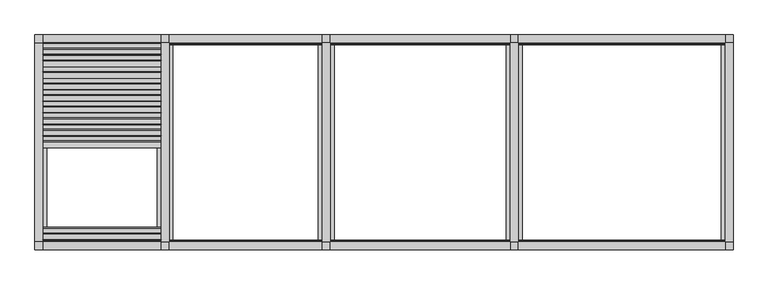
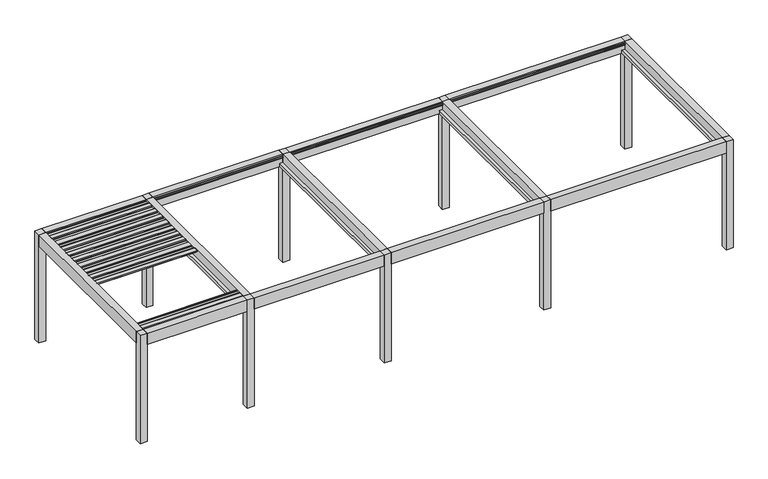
"""IFC4 building model written with IfcOpenShell, lengths in millimetres: proxy geometry, Renson_Camargue_Freestanding_Patio covers : Renson_Camargue_Freestanding_Patio covers."""

from ifc_helpers import new_model, si_unit, point, frame, frame_2d, origin, origin_with_axes, place, context, project, spatial, polyline, circle_curve, trimmed, segment, composite_curve, outline, extrude, source, transform, mapped, element, save


def generic_models_125597d2(model_context):
    return source(origin(), model_context, "Body", "SweptSolid", [
        extrude(outline(composite_curve([segment(polyline([(-68.6582016, 2458.35), (-71.0783113, 2486.01198), (-99.9135617, 2487.3970364), (-96.4762307, 2506.8911096), (13.5208842, 2501.6075693)]), True, "CONTINUOUS"), segment(trimmed(circle_curve(frame_2d((12.8012122, 2486.6248435)), 15.0), [point((13.5208842, 2501.6075693))], [point((27.5733285, 2489.2295662))], False, "CARTESIAN"), True, "CONTINUOUS"), segment(polyline([(27.5733285, 2489.2295662), (30.9640199, 2470.0), (118.6997959, 2470.0), (121.7112533, 2487.0788237), (136.9882238, 2486.3450182), (139.4374705, 2458.35), (-68.6582016, 2458.35)]), True, "CONTINUOUS")], self_intersect=False)), frame((-1100.0, 0.0, 0.0), z_axis=(1.0, 0.0, 0.0), x_axis=(0.0, 1.0, 0.0)), (0.0, 0.0, 1.0), 2200.0),
        extrude(outline(composite_curve([segment(polyline([(146.3526032, 2458.35), (143.9324935, 2486.01198), (115.097243, 2487.3970364), (118.5345741, 2506.8911096), (228.531689, 2501.6075693)]), True, "CONTINUOUS"), segment(trimmed(circle_curve(frame_2d((227.812017, 2486.6248435)), 15.0), [point((228.531689, 2501.6075693))], [point((242.5841333, 2489.2295662))], False, "CARTESIAN"), True, "CONTINUOUS"), segment(polyline([(242.5841333, 2489.2295662), (245.9748247, 2470.0), (333.7106007, 2470.0), (336.7220581, 2487.0788237), (351.9990286, 2486.3450182), (354.4482753, 2458.35), (146.3526032, 2458.35)]), True, "CONTINUOUS")], self_intersect=False)), frame((-1100.0, 0.0, 0.0), z_axis=(1.0, 0.0, 0.0), x_axis=(0.0, 1.0, 0.0)), (0.0, 0.0, 1.0), 2200.0),
        extrude(outline(composite_curve([segment(polyline([(361.3634079, 2458.35), (358.9432983, 2486.01198), (330.1080478, 2487.3970364), (333.5453789, 2506.8911096), (443.5424937, 2501.6075693)]), True, "CONTINUOUS"), segment(trimmed(circle_curve(frame_2d((442.8228218, 2486.6248435)), 15.0), [point((443.5424937, 2501.6075693))], [point((457.5949381, 2489.2295662))], False, "CARTESIAN"), True, "CONTINUOUS"), segment(polyline([(457.5949381, 2489.2295662), (460.9856294, 2470.0), (548.7214055, 2470.0), (551.7328629, 2487.0788237), (567.0098334, 2486.3450182), (569.4590801, 2458.35), (361.3634079, 2458.35)]), True, "CONTINUOUS")], self_intersect=False)), frame((-1100.0, 0.0, 0.0), z_axis=(1.0, 0.0, 0.0), x_axis=(0.0, 1.0, 0.0)), (0.0, 0.0, 1.0), 2200.0),
        extrude(outline(composite_curve([segment(polyline([(576.3742127, 2458.35), (573.9541031, 2486.01198), (545.1188526, 2487.3970364), (548.5561837, 2506.8911096), (658.5532985, 2501.6075693)]), True, "CONTINUOUS"), segment(trimmed(circle_curve(frame_2d((657.8336266, 2486.6248435)), 15.0), [point((658.5532985, 2501.6075693))], [point((672.6057429, 2489.2295662))], False, "CARTESIAN"), True, "CONTINUOUS"), segment(polyline([(672.6057429, 2489.2295662), (675.9964342, 2470.0), (763.7322103, 2470.0), (766.7436677, 2487.0788237), (782.0206381, 2486.3450182), (784.4698849, 2458.35), (576.3742127, 2458.35)]), True, "CONTINUOUS")], self_intersect=False)), frame((-1100.0, 0.0, 0.0), z_axis=(1.0, 0.0, 0.0), x_axis=(0.0, 1.0, 0.0)), (0.0, 0.0, 1.0), 2200.0),
        extrude(outline(composite_curve([segment(polyline([(791.3850175, 2458.35), (788.9649078, 2486.01198), (760.1296574, 2487.3970364), (763.5669885, 2506.8911096), (873.5641033, 2501.6075693)]), True, "CONTINUOUS"), segment(trimmed(circle_curve(frame_2d((872.8444314, 2486.6248435)), 15.0), [point((873.5641033, 2501.6075693))], [point((887.6165477, 2489.2295662))], False, "CARTESIAN"), True, "CONTINUOUS"), segment(polyline([(887.6165477, 2489.2295662), (891.007239, 2470.0), (978.743015, 2470.0), (981.7544725, 2487.0788237), (997.0314429, 2486.3450182), (999.4806897, 2458.35), (791.3850175, 2458.35)]), True, "CONTINUOUS")], self_intersect=False)), frame((-1100.0, 0.0, 0.0), z_axis=(1.0, 0.0, 0.0), x_axis=(0.0, 1.0, 0.0)), (0.0, 0.0, 1.0), 2200.0),
        extrude(outline(composite_curve([segment(polyline([(1006.3958223, 2458.35), (1003.9757126, 2486.01198), (975.1404622, 2487.3970364), (978.5777932, 2506.8911096), (1088.5749081, 2501.6075693)]), True, "CONTINUOUS"), segment(trimmed(circle_curve(frame_2d((1087.8552362, 2486.6248435)), 15.0), [point((1088.5749081, 2501.6075693))], [point((1102.6273525, 2489.2295662))], False, "CARTESIAN"), True, "CONTINUOUS"), segment(polyline([(1102.6273525, 2489.2295662), (1106.0180438, 2470.0), (1193.7538198, 2470.0), (1196.7652772, 2487.0788237), (1212.0422477, 2486.3450182), (1214.4914944, 2458.35), (1006.3958223, 2458.35)]), True, "CONTINUOUS")], self_intersect=False)), frame((-1100.0, 0.0, 0.0), z_axis=(1.0, 0.0, 0.0), x_axis=(0.0, 1.0, 0.0)), (0.0, 0.0, 1.0), 2200.0),
        extrude(outline(composite_curve([segment(polyline([(1221.4066271, 2458.35), (1218.9865174, 2486.01198), (1190.1512669, 2487.3970364), (1193.588598, 2506.8911096), (1303.5857129, 2501.6075693)]), True, "CONTINUOUS"), segment(trimmed(circle_curve(frame_2d((1302.8660409, 2486.6248435)), 15.0), [point((1303.5857129, 2501.6075693))], [point((1317.6381572, 2489.2295662))], False, "CARTESIAN"), True, "CONTINUOUS"), segment(polyline([(1317.6381572, 2489.2295662), (1321.0288486, 2470.0), (1408.7646246, 2470.0), (1411.776082, 2487.0788237), (1427.0530525, 2486.3450182), (1429.5022992, 2458.35), (1221.4066271, 2458.35)]), True, "CONTINUOUS")], self_intersect=False)), frame((-1100.0, 0.0, 0.0), z_axis=(1.0, 0.0, 0.0), x_axis=(0.0, 1.0, 0.0)), (0.0, 0.0, 1.0), 2200.0),
        extrude(outline(composite_curve([segment(polyline([(1436.4174318, 2458.35), (1433.9973222, 2486.01198), (1405.1620717, 2487.3970364), (1408.5994028, 2506.8911096), (1518.5965176, 2501.6075693)]), True, "CONTINUOUS"), segment(trimmed(circle_curve(frame_2d((1517.8768457, 2486.6248435)), 15.0), [point((1518.5965176, 2501.6075693))], [point((1532.648962, 2489.2295662))], False, "CARTESIAN"), True, "CONTINUOUS"), segment(polyline([(1532.648962, 2489.2295662), (1536.0396534, 2470.0), (1623.7754294, 2470.0), (1626.7868868, 2487.0788237), (1642.0638573, 2486.3450182), (1644.513104, 2458.35), (1436.4174318, 2458.35)]), True, "CONTINUOUS")], self_intersect=False)), frame((-1100.0, 0.0, 0.0), z_axis=(1.0, 0.0, 0.0), x_axis=(0.0, 1.0, 0.0)), (0.0, 0.0, 1.0), 2200.0),
        extrude(outline(composite_curve([segment(polyline([(-1788.7446399, 2458.35), (-1791.1647495, 2486.01198), (-1820.0, 2487.3970364), (-1816.5626689, 2506.8911096), (-1706.5655541, 2501.6075693)]), True, "CONTINUOUS"), segment(trimmed(circle_curve(frame_2d((-1707.285226, 2486.6248435)), 15.0), [point((-1706.5655541, 2501.6075693))], [point((-1692.5131097, 2489.2295662))], False, "CARTESIAN"), True, "CONTINUOUS"), segment(polyline([(-1692.5131097, 2489.2295662), (-1689.1224184, 2470.0), (-1601.3866423, 2470.0), (-1598.3751849, 2487.0788237), (-1583.0982144, 2486.3450182), (-1580.6489677, 2458.35), (-1788.7446399, 2458.35)]), True, "CONTINUOUS")], self_intersect=False)), frame((-1100.0, 0.0, 0.0), z_axis=(1.0, 0.0, 0.0), x_axis=(0.0, 1.0, 0.0)), (0.0, 0.0, 1.0), 2200.0),
        extrude(outline(composite_curve([segment(polyline([(1651.4282366, 2458.35), (1649.008127, 2486.01198), (1620.1728765, 2487.3970364), (1623.6102076, 2506.8911096), (1733.6073224, 2501.6075693)]), True, "CONTINUOUS"), segment(trimmed(circle_curve(frame_2d((1732.8876505, 2486.6248435)), 15.0), [point((1733.6073224, 2501.6075693))], [point((1747.6597668, 2489.2295662))], False, "CARTESIAN"), True, "CONTINUOUS"), segment(polyline([(1747.6597668, 2489.2295662), (1751.0504581, 2470.0), (1838.7862342, 2470.0), (1841.7976916, 2487.0788237), (1857.0746621, 2486.3450182), (1859.5239088, 2458.35), (1651.4282366, 2458.35)]), True, "CONTINUOUS")], self_intersect=False)), frame((-1100.0, 0.0, 0.0), z_axis=(1.0, 0.0, 0.0), x_axis=(0.0, 1.0, 0.0)), (0.0, 0.0, 1.0), 2200.0),
        extrude(outline(polyline([(1850.0, 2441.6559373), (1824.0, 2441.6559373), (1820.2487113, 2455.6555802), (1829.5940945, 2455.6555802), (1845.0, 2471.400763), (1845.0, 2479.2449277), (1850.0, 2479.6823598), (1850.0, 2441.6559373)])), frame((7750.0, 0.0, 0.0), z_axis=(1.0, 0.0, 0.0), x_axis=(0.0, 1.0, 0.0)), (0.0, 0.0, 1.0), 3850.0),
        extrude(outline(polyline([(11600.0, 2000.0), (11600.0, 1850.0), (7750.0, 1850.0), (7750.0, 2000.0), (11600.0, 2000.0)])), frame((0.0, 0.0, 2250.0), z_axis=(0.0, 0.0, 1.0), x_axis=(1.0, 0.0, 0.0)), (0.0, 0.0, 1.0), 260.0),
        extrude(outline(polyline([(-2000.0, 2250.0), (-2000.0, 2510.0), (-1850.0, 2510.0), (-1850.0, 2479.6823598), (-1845.0, 2479.2449277), (-1845.0, 2471.400763), (-1829.2544156, 2455.6555802), (-1819.9090324, 2455.6555802), (-1823.6603211, 2441.6559373), (-1850.0, 2441.6559373), (-1850.0, 2250.0), (-2000.0, 2250.0)])), frame((7750.0, 0.0, 0.0), z_axis=(1.0, 0.0, 0.0), x_axis=(0.0, 1.0, 0.0)), (0.0, 0.0, 1.0), 3850.0),
        extrude(outline(polyline([(2510.0, 7600.0), (2322.0, 7600.0), (2322.0, 7530.0000001), (2250.0, 7530.0000001), (2250.0, 7819.9999999), (2322.0, 7819.9999999), (2322.0, 7750.0), (2510.0, 7750.0), (2510.0, 7600.0)])), frame((0.0, -1850.0, 0.0), z_axis=(0.0, 1.0, 0.0), x_axis=(0.0, 0.0, 1.0)), (0.0, 0.0, 1.0), 3700.0),
        extrude(outline(polyline([(2510.0, 11600.0), (2322.0, 11600.0), (2322.0, 11530.0000001), (2250.0, 11530.0000001), (2250.0, 11750.0), (2510.0, 11750.0), (2510.0, 11600.0)])), frame((0.0, -1850.0, 0.0), z_axis=(0.0, 1.0, 0.0), x_axis=(0.0, 0.0, 1.0)), (0.0, 0.0, 1.0), 3700.0),
        extrude(outline(polyline([(11750.0, 1850.0), (11600.0, 1850.0), (11600.0, 2000.0), (11750.0, 2000.0), (11750.0, 1850.0)])), origin_with_axes(), (0.0, 0.0, 1.0), 2510.0),
        extrude(outline(polyline([(11750.0, -1850.0), (11750.0, -2000.0), (11600.0, -2000.0), (11600.0, -1850.0), (11750.0, -1850.0)])), origin_with_axes(), (0.0, 0.0, 1.0), 2510.0),
        extrude(outline(polyline([(1850.0, 2441.6559373), (1824.0, 2441.6559373), (1820.2487113, 2455.6555802), (1829.5940945, 2455.6555802), (1845.0, 2471.400763), (1845.0, 2479.2449277), (1850.0, 2479.6823598), (1850.0, 2441.6559373)])), frame((4250.0, 0.0, 0.0), z_axis=(1.0, 0.0, 0.0), x_axis=(0.0, 1.0, 0.0)), (0.0, 0.0, 1.0), 3350.0),
        extrude(outline(polyline([(-1850.0, 2479.6823598), (-1845.0, 2479.2449277), (-1845.0, 2471.400763), (-1829.2544156, 2455.6555802), (-1819.9090324, 2455.6555802), (-1823.6603211, 2441.6559373), (-1850.0, 2441.6559373), (-1850.0, 2250.0), (-2000.0, 2250.0), (-2000.0, 2510.0), (-1850.0, 2510.0), (-1850.0, 2479.6823598)])), frame((4250.0, 0.0, 0.0), z_axis=(1.0, 0.0, 0.0), x_axis=(0.0, 1.0, 0.0)), (0.0, 0.0, 1.0), 3350.0),
        extrude(outline(polyline([(7600.0, 2000.0), (7600.0, 1850.0), (4250.0, 1850.0), (4250.0, 2000.0), (7600.0, 2000.0)])), frame((0.0, 0.0, 2250.0), z_axis=(0.0, 0.0, 1.0), x_axis=(1.0, 0.0, 0.0)), (0.0, 0.0, 1.0), 260.0),
        extrude(outline(polyline([(2510.0, 4100.0), (2322.0, 4100.0), (2322.0, 4030.0000001), (2250.0, 4030.0000001), (2250.0, 4319.9999999), (2322.0, 4319.9999999), (2322.0, 4250.0), (2510.0, 4250.0), (2510.0, 4100.0)])), frame((0.0, -1850.0, 0.0), z_axis=(0.0, 1.0, 0.0), x_axis=(0.0, 0.0, 1.0)), (0.0, 0.0, 1.0), 3700.0),
        extrude(outline(polyline([(2510.0, 7600.0), (2322.0, 7600.0), (2322.0, 7530.0000001), (2250.0, 7530.0000001), (2250.0, 7750.0), (2510.0, 7750.0), (2510.0, 7600.0)])), frame((0.0, -1850.0, 0.0), z_axis=(0.0, 1.0, 0.0), x_axis=(0.0, 0.0, 1.0)), (0.0, 0.0, 1.0), 3700.0),
        extrude(outline(polyline([(7750.0, 2000.0), (7750.0, 1850.0), (7600.0, 1850.0), (7600.0, 2000.0), (7750.0, 2000.0)])), origin_with_axes(), (0.0, 0.0, 1.0), 2510.0),
        extrude(outline(polyline([(7750.0, -2000.0), (7600.0, -2000.0), (7600.0, -1850.0), (7750.0, -1850.0), (7750.0, -2000.0)])), origin_with_axes(), (0.0, 0.0, 1.0), 2510.0),
        extrude(outline(polyline([(1850.0, 2441.6559373), (1824.0, 2441.6559373), (1820.2487113, 2455.6555802), (1829.5940945, 2455.6555802), (1845.0, 2471.400763), (1845.0, 2479.2449277), (1850.0, 2479.6823598), (1850.0, 2441.6559373)])), frame((1250.0, 0.0, 0.0), z_axis=(1.0, 0.0, 0.0), x_axis=(0.0, 1.0, 0.0)), (0.0, 0.0, 1.0), 2850.0),
        extrude(outline(polyline([(4250.0, 2000.0), (4250.0, 1850.0), (4100.0, 1850.0), (4100.0, 2000.0), (4250.0, 2000.0)])), origin_with_axes(), (0.0, 0.0, 1.0), 2510.0),
        extrude(outline(polyline([(4250.0, -2000.0), (4100.0, -2000.0), (4100.0, -1850.0), (4250.0, -1850.0), (4250.0, -2000.0)])), origin_with_axes(), (0.0, 0.0, 1.0), 2510.0),
        extrude(outline(polyline([(4100.0, 2000.0), (4100.0, 1850.0), (1250.0, 1850.0), (1250.0, 2000.0), (4100.0, 2000.0)])), frame((0.0, 0.0, 2250.0), z_axis=(0.0, 0.0, 1.0), x_axis=(1.0, 0.0, 0.0)), (0.0, 0.0, 1.0), 260.0),
        extrude(outline(polyline([(-1850.0, 2250.0), (-2000.0, 2250.0), (-2000.0, 2510.0), (-1850.0, 2510.0), (-1850.0, 2479.6823598), (-1845.0, 2479.2449277), (-1845.0, 2471.400763), (-1829.2544156, 2455.6555802), (-1819.9090324, 2455.6555802), (-1823.6603211, 2441.6559373), (-1850.0, 2441.6559373), (-1850.0, 2250.0)])), frame((1250.0, 0.0, 0.0), z_axis=(1.0, 0.0, 0.0), x_axis=(0.0, 1.0, 0.0)), (0.0, 0.0, 1.0), 2850.0),
        extrude(outline(polyline([(2510.0, 1100.0), (2322.0, 1100.0), (2322.0, 1030.0000001), (2250.0, 1030.0000001), (2250.0, 1319.9999999), (2322.0, 1319.9999999), (2322.0, 1250.0), (2510.0, 1250.0), (2510.0, 1100.0)])), frame((0.0, -1850.0, 0.0), z_axis=(0.0, 1.0, 0.0), x_axis=(0.0, 0.0, 1.0)), (0.0, 0.0, 1.0), 3700.0),
        extrude(outline(polyline([(2510.0, 4100.0), (2322.0, 4100.0), (2322.0, 4030.0000001), (2250.0, 4030.0000001), (2250.0, 4250.0), (2510.0, 4250.0), (2510.0, 4100.0)])), frame((0.0, -1850.0, 0.0), z_axis=(0.0, 1.0, 0.0), x_axis=(0.0, 0.0, 1.0)), (0.0, 0.0, 1.0), 3700.0),
        extrude(outline(polyline([(1850.0, 2441.6559373), (1824.0, 2441.6559373), (1820.2487113, 2455.6555802), (1829.5940945, 2455.6555802), (1845.0, 2471.400763), (1845.0, 2479.2449277), (1850.0, 2479.6823598), (1850.0, 2441.6559373)])), frame((-1100.0, 0.0, 0.0), z_axis=(1.0, 0.0, 0.0), x_axis=(0.0, 1.0, 0.0)), (0.0, 0.0, 1.0), 2200.0),
        extrude(outline(polyline([(-1100.0, 2000.0), (-1100.0, 1850.0), (-1250.0, 1850.0), (-1250.0, 2000.0), (-1100.0, 2000.0)])), origin_with_axes(), (0.0, 0.0, 1.0), 2510.0),
        extrude(outline(polyline([(1250.0, 2000.0), (1250.0, 1850.0), (1100.0, 1850.0), (1100.0, 2000.0), (1250.0, 2000.0)])), origin_with_axes(), (0.0, 0.0, 1.0), 2510.0),
        extrude(outline(polyline([(1250.0, -1850.0), (1250.0, -2000.0), (1100.0, -2000.0), (1100.0, -1850.0), (1250.0, -1850.0)])), origin_with_axes(), (0.0, 0.0, 1.0), 2510.0),
        extrude(outline(polyline([(-1100.0, -1850.0), (-1100.0, -2000.0), (-1250.0, -2000.0), (-1250.0, -1850.0), (-1100.0, -1850.0)])), origin_with_axes(), (0.0, 0.0, 1.0), 2510.0),
        extrude(outline(polyline([(-1850.0, 2510.0), (-1850.0, 2479.6823598), (-1845.0, 2479.2449277), (-1845.0, 2471.400763), (-1829.2544156, 2455.6555802), (-1819.9090324, 2455.6555802), (-1823.6603211, 2441.6559373), (-1850.0, 2441.6559373), (-1850.0, 2250.0), (-2000.0, 2250.0), (-2000.0, 2510.0), (-1850.0, 2510.0)])), frame((-1100.0, 0.0, 0.0), z_axis=(1.0, 0.0, 0.0), x_axis=(0.0, 1.0, 0.0)), (0.0, 0.0, 1.0), 2200.0),
        extrude(outline(polyline([(1100.0, 2000.0), (1100.0, 1850.0), (-1100.0, 1850.0), (-1100.0, 2000.0), (1100.0, 2000.0)])), frame((0.0, 0.0, 2250.0), z_axis=(0.0, 0.0, 1.0), x_axis=(1.0, 0.0, 0.0)), (0.0, 0.0, 1.0), 260.0),
        extrude(outline(polyline([(2510.0, -1100.0), (2510.0, -1250.0), (2250.0, -1250.0), (2250.0, -1030.0000001), (2322.0, -1030.0000001), (2322.0, -1100.0), (2510.0, -1100.0)])), frame((0.0, -1850.0, 0.0), z_axis=(0.0, 1.0, 0.0), x_axis=(0.0, 0.0, 1.0)), (0.0, 0.0, 1.0), 3700.0),
        extrude(outline(polyline([(2250.0, 1250.0), (2510.0, 1250.0), (2510.0, 1100.0), (2322.0, 1100.0), (2322.0, 1030.0000001), (2250.0, 1030.0000001), (2250.0, 1250.0)])), frame((0.0, -1850.0, 0.0), z_axis=(0.0, 1.0, 0.0), x_axis=(0.0, 0.0, 1.0)), (0.0, 0.0, 1.0), 3700.0),
    ])


if __name__ == "__main__":
    model = new_model("IFC4")
    model_context = context("Model", 3, world=origin())
    ifc_project = project(units=[si_unit("LENGTHUNIT", "METRE", prefix="MILLI")], contexts=[model_context])
    site = spatial("IfcSite", under=ifc_project)
    building = spatial("IfcBuilding", under=site)
    placement = place(None, origin())
    generic_models_shape = generic_models_125597d2(model_context)
    element("IfcBuildingElementProxy", 1, Name="Renson_Camargue_Freestanding_Patio covers : Renson_Camargue_Freestanding_Patio covers", ObjectType="Renson_Camargue_Freestanding_Patio covers : Renson_Camargue_Freestanding_Patio covers", at=placement, inside=building, context=model_context, shape_type="MappedRepresentation", body=[
        mapped(generic_models_shape, transform((0.0, 0.0, 0.0), x_axis=(1.0, 0.0, 0.0), y_axis=(0.0, 1.0, 0.0), z_axis=(0.0, 0.0, 1.0))),
    ])
    save(model, "model.ifc")
